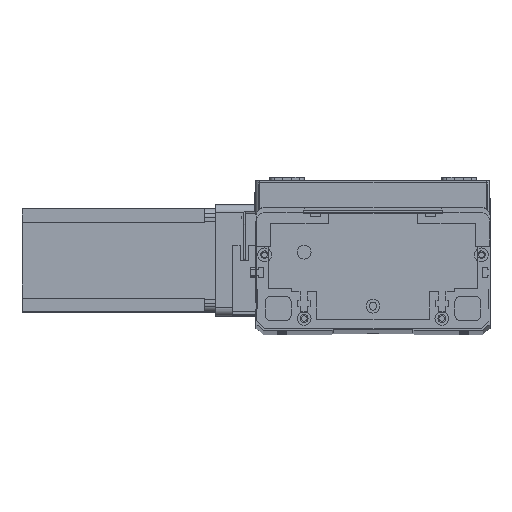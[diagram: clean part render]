
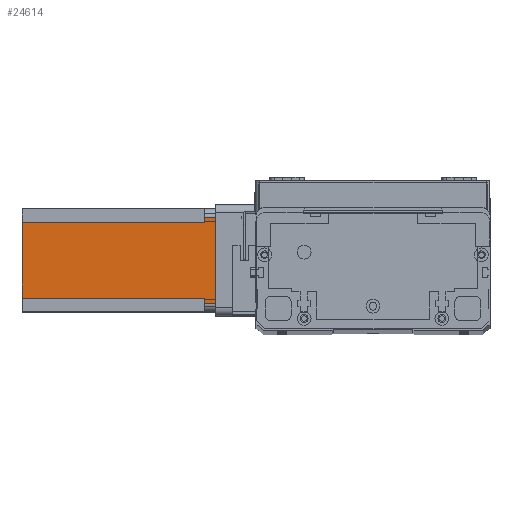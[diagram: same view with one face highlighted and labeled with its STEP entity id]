
A CAD part, top view. The second image highlights one B-rep face of the part: STEP entity #24614.
In plain terms, the highlighted planar face has unit normal (0, 0, 1) as drawn and (0, -1, 0) by its records, which use the part's own axes.
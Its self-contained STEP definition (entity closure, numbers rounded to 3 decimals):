
#52 = VERTEX_POINT ( 'NONE', #17014 ) ;
#694 = DIRECTION ( 'NONE',  ( 0., 0., 1. ) ) ;
#1208 = LINE ( 'NONE', #16581, #22065 ) ;
#1511 = LINE ( 'NONE', #1581, #17096 ) ;
#1581 = CARTESIAN_POINT ( 'NONE',  ( 8., 0., -112.5 ) ) ;
#2695 = VERTEX_POINT ( 'NONE', #25297 ) ;
#3096 = VECTOR ( 'NONE', #7967, 1000. ) ;
#4306 = VERTEX_POINT ( 'NONE', #4490 ) ;
#4490 = CARTESIAN_POINT ( 'NONE',  ( 8., 0., -112.5 ) ) ;
#5015 = CARTESIAN_POINT ( 'NONE',  ( 8., 0., -6.5 ) ) ;
#5443 = ORIENTED_EDGE ( 'NONE', *, *, #5827, .T. ) ;
#5517 = VECTOR ( 'NONE', #7553, 1000. ) ;
#5827 = EDGE_CURVE ( 'NONE', #52, #11116, #18572, .T. ) ;
#6075 = EDGE_CURVE ( 'NONE', #11116, #15096, #7453, .T. ) ;
#6311 = EDGE_CURVE ( 'NONE', #20436, #16577, #8390, .T. ) ;
#6485 = VECTOR ( 'NONE', #14329, 1000. ) ;
#6599 = EDGE_CURVE ( 'NONE', #9277, #16577, #11565, .T. ) ;
#6633 = ORIENTED_EDGE ( 'NONE', *, *, #7043, .F. ) ;
#7043 = EDGE_CURVE ( 'NONE', #4306, #9277, #1511, .T. ) ;
#7194 = EDGE_CURVE ( 'NONE', #4306, #2695, #12614, .T. ) ;
#7392 = CARTESIAN_POINT ( 'NONE',  ( 8., 0., -6.5 ) ) ;
#7453 = LINE ( 'NONE', #16383, #17628 ) ;
#7471 = EDGE_CURVE ( 'NONE', #52, #2695, #1208, .T. ) ;
#7477 = CARTESIAN_POINT ( 'NONE',  ( 5., 0., -112.5 ) ) ;
#7553 = DIRECTION ( 'NONE',  ( -1., 0., 0. ) ) ;
#7741 = VECTOR ( 'NONE', #12802, 1000. ) ;
#7839 = FACE_OUTER_BOUND ( 'NONE', #10409, .T. ) ;
#7967 = DIRECTION ( 'NONE',  ( 1., 0., 0. ) ) ;
#8139 = CARTESIAN_POINT ( 'NONE',  ( 0., 0., -112.5 ) ) ;
#8390 = LINE ( 'NONE', #7477, #7741 ) ;
#9277 = VERTEX_POINT ( 'NONE', #5015 ) ;
#10409 = EDGE_LOOP ( 'NONE', ( #5443, #16261, #14461, #22397, #22887, #6633, #25025, #18242 ) ) ;
#11116 = VERTEX_POINT ( 'NONE', #25388 ) ;
#11565 = LINE ( 'NONE', #7392, #5517 ) ;
#11986 = VECTOR ( 'NONE', #22454, 1000. ) ;
#12231 = DIRECTION ( 'NONE',  ( 0., 0., -1. ) ) ;
#12614 = LINE ( 'NONE', #23111, #11986 ) ;
#12802 = DIRECTION ( 'NONE',  ( 0., 0., -1. ) ) ;
#13399 = AXIS2_PLACEMENT_3D ( 'NONE', #8139, #24189, #12231 ) ;
#14329 = DIRECTION ( 'NONE',  ( 1., 0., 0. ) ) ;
#14461 = ORIENTED_EDGE ( 'NONE', *, *, #24596, .F. ) ;
#14502 = LINE ( 'NONE', #18173, #3096 ) ;
#15096 = VERTEX_POINT ( 'NONE', #22601 ) ;
#15373 = DIRECTION ( 'NONE',  ( 0., 0., -1. ) ) ;
#16109 = DIRECTION ( 'NONE',  ( 0., 0., 1. ) ) ;
#16261 = ORIENTED_EDGE ( 'NONE', *, *, #6075, .T. ) ;
#16383 = CARTESIAN_POINT ( 'NONE',  ( 55., 0., -112.5 ) ) ;
#16577 = VERTEX_POINT ( 'NONE', #17708 ) ;
#16581 = CARTESIAN_POINT ( 'NONE',  ( 52., 0., -112.5 ) ) ;
#17014 = CARTESIAN_POINT ( 'NONE',  ( 52., 0., -6.5 ) ) ;
#17096 = VECTOR ( 'NONE', #694, 1000. ) ;
#17628 = VECTOR ( 'NONE', #16109, 1000. ) ;
#17708 = CARTESIAN_POINT ( 'NONE',  ( 5., 0., -6.5 ) ) ;
#18173 = CARTESIAN_POINT ( 'NONE',  ( 0., 0., 0. ) ) ;
#18242 = ORIENTED_EDGE ( 'NONE', *, *, #7471, .F. ) ;
#18572 = LINE ( 'NONE', #21613, #6485 ) ;
#20436 = VERTEX_POINT ( 'NONE', #20742 ) ;
#20742 = CARTESIAN_POINT ( 'NONE',  ( 5., 0., 0. ) ) ;
#21613 = CARTESIAN_POINT ( 'NONE',  ( 52., 0., -6.5 ) ) ;
#22065 = VECTOR ( 'NONE', #15373, 1000. ) ;
#22220 = PLANE ( 'NONE',  #13399 ) ;
#22397 = ORIENTED_EDGE ( 'NONE', *, *, #6311, .T. ) ;
#22454 = DIRECTION ( 'NONE',  ( 1., 0., 0. ) ) ;
#22601 = CARTESIAN_POINT ( 'NONE',  ( 55., 0., 0. ) ) ;
#22887 = ORIENTED_EDGE ( 'NONE', *, *, #6599, .F. ) ;
#23111 = CARTESIAN_POINT ( 'NONE',  ( 0., 0., -112.5 ) ) ;
#24189 = DIRECTION ( 'NONE',  ( 0., -1., 0. ) ) ;
#24596 = EDGE_CURVE ( 'NONE', #20436, #15096, #14502, .T. ) ;
#24614 = ADVANCED_FACE ( 'NONE', ( #7839 ), #22220, .T. ) ;
#25025 = ORIENTED_EDGE ( 'NONE', *, *, #7194, .T. ) ;
#25297 = CARTESIAN_POINT ( 'NONE',  ( 52., 0., -112.5 ) ) ;
#25388 = CARTESIAN_POINT ( 'NONE',  ( 55., 0., -6.5 ) ) ;
